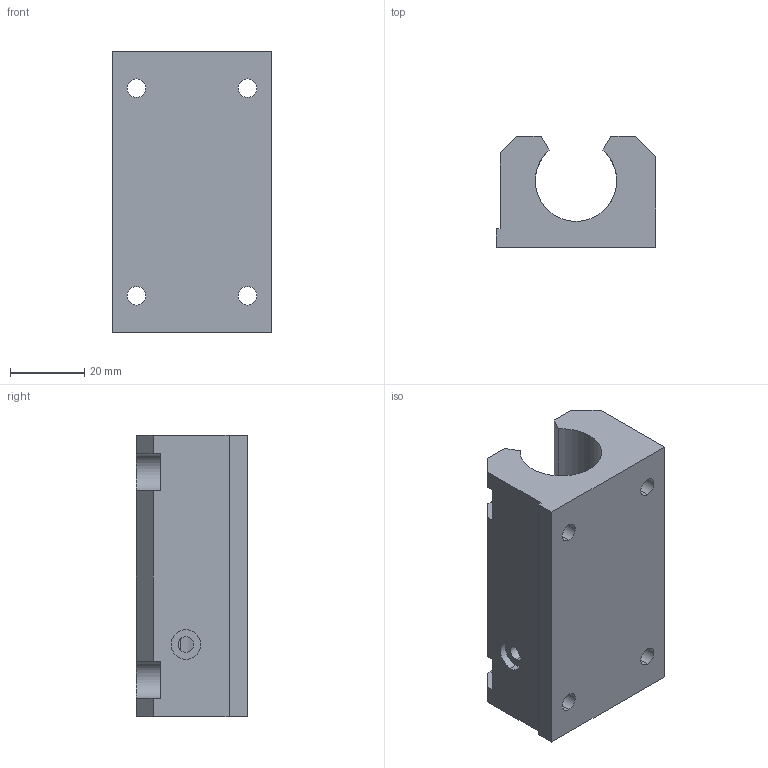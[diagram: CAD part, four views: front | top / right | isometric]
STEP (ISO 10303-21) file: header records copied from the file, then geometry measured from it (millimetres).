
FILE_DESCRIPTION (( 'STEP AP214' ), '1' );
FILE_NAME ('KTGO87-I-12.step', '2020-03-04T13:31:19', ( '' ), ( '' ), 'SwSTEP 2.0', 'SolidWorks 2019', '' );
FILE_SCHEMA (( 'AUTOMOTIVE_DESIGN' ));
Length unit declared in the file: millimetre
Products named in the file (1): KTGO87-I-12
Bounding box: 43 x 30 x 76 mm (x, y, z)
Volume: 57806.3 mm3; surface area: 17884.9 mm2
Topology: 1 solids, 1 shells, 60 faces, 170 edges, 112 vertices
Faces by surface type: plane 31, cylinder 27, cone 2
Entity records: 2328 total; most frequent: CARTESIAN_POINT 525, ORIENTED_EDGE 340, DIRECTION 330, EDGE_CURVE 170, VECTOR 112, LINE 112, VERTEX_POINT 112, AXIS2_PLACEMENT_3D 109
